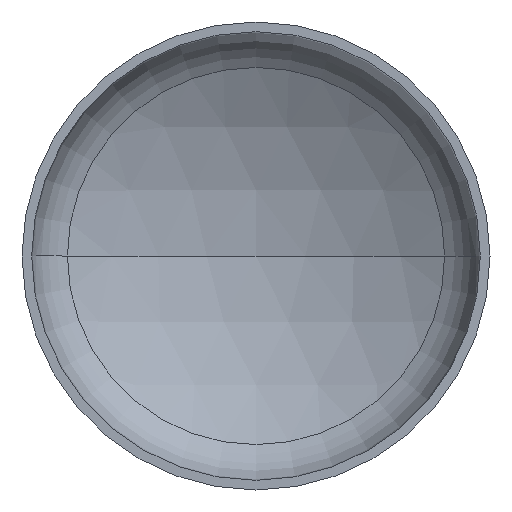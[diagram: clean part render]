
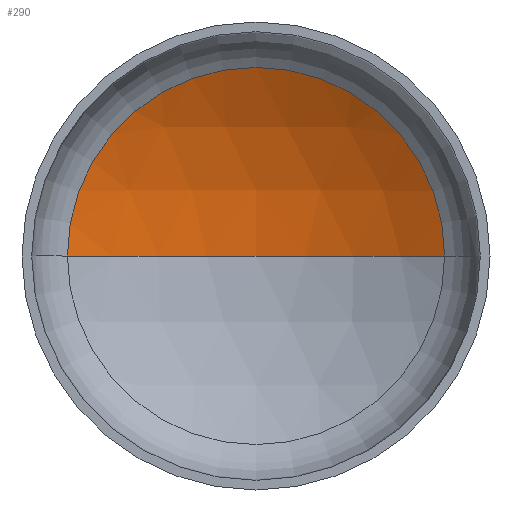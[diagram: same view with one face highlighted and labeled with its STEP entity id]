
A CAD part, front view. The second image highlights one B-rep face of the part: STEP entity #290.
In plain terms, the highlighted spherical face has radius 4400 mm.
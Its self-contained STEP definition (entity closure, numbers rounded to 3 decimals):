
#15 = VERTEX_POINT ( 'NONE', #155 ) ;
#18 = DIRECTION ( 'NONE',  ( 1., 0., 0. ) ) ;
#23 = AXIS2_PLACEMENT_3D ( 'NONE', #242, #266, #171 ) ;
#59 = VERTEX_POINT ( 'NONE', #157 ) ;
#72 = VERTEX_POINT ( 'NONE', #285 ) ;
#73 = AXIS2_PLACEMENT_3D ( 'NONE', #140, #90, #18 ) ;
#78 = AXIS2_PLACEMENT_3D ( 'NONE', #144, #79, #139 ) ;
#79 = DIRECTION ( 'NONE',  ( 0., 0., -1. ) ) ;
#83 = AXIS2_PLACEMENT_3D ( 'NONE', #347, #149, #348 ) ;
#86 = ORIENTED_EDGE ( 'NONE', *, *, #175, .T. ) ;
#90 = DIRECTION ( 'NONE',  ( 0., 0., 1. ) ) ;
#95 = EDGE_LOOP ( 'NONE', ( #375, #106, #86 ) ) ;
#106 = ORIENTED_EDGE ( 'NONE', *, *, #178, .T. ) ;
#139 = DIRECTION ( 'NONE',  ( -1., 0., 0. ) ) ;
#140 = CARTESIAN_POINT ( 'NONE',  ( 0., -2995.887, 0. ) ) ;
#144 = CARTESIAN_POINT ( 'NONE',  ( 0., -2995.887, 0. ) ) ;
#149 = DIRECTION ( 'NONE',  ( 0., -1., 0. ) ) ;
#155 = CARTESIAN_POINT ( 'NONE',  ( 0., 1404.113, 0. ) ) ;
#157 = CARTESIAN_POINT ( 'NONE',  ( 2216.709, 804.929, 0. ) ) ;
#171 = DIRECTION ( 'NONE',  ( -1., 0., 0. ) ) ;
#175 = EDGE_CURVE ( 'NONE', #59, #72, #352, .T. ) ;
#178 = EDGE_CURVE ( 'NONE', #15, #59, #234, .T. ) ;
#179 = EDGE_CURVE ( 'NONE', #15, #72, #403, .T. ) ;
#234 = CIRCLE ( 'NONE', #78, 4400. ) ;
#242 = CARTESIAN_POINT ( 'NONE',  ( 0., -2995.887, 0. ) ) ;
#266 = DIRECTION ( 'NONE',  ( 0., 0., -1. ) ) ;
#270 = SPHERICAL_SURFACE ( 'NONE', #23, 4400. ) ;
#285 = CARTESIAN_POINT ( 'NONE',  ( -2216.709, 804.929, 0. ) ) ;
#290 = ADVANCED_FACE ( 'NONE', ( #323 ), #270, .F. ) ;
#323 = FACE_OUTER_BOUND ( 'NONE', #95, .T. ) ;
#347 = CARTESIAN_POINT ( 'NONE',  ( 0., 804.929, 0. ) ) ;
#348 = DIRECTION ( 'NONE',  ( 1., 0., 0. ) ) ;
#352 = CIRCLE ( 'NONE', #83, 2216.709 ) ;
#375 = ORIENTED_EDGE ( 'NONE', *, *, #179, .F. ) ;
#403 = CIRCLE ( 'NONE', #73, 4400. ) ;
